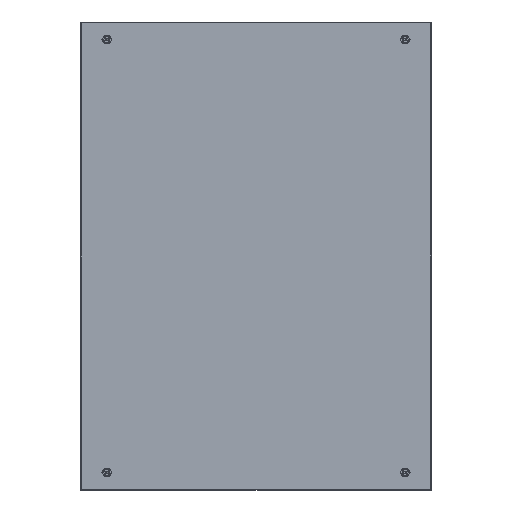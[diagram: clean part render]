
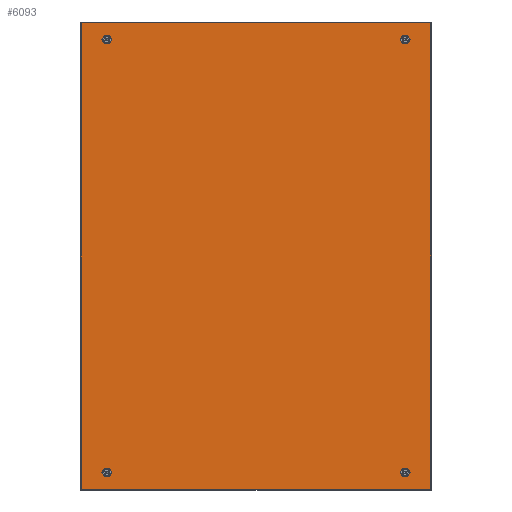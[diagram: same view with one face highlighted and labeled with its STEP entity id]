
A CAD part, left-side view. The second image highlights one B-rep face of the part: STEP entity #6093.
In plain terms, the highlighted planar face has unit normal (-1, 0, 0).
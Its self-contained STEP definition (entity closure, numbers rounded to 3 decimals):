
#497=CIRCLE('',#8016,5.125);
#499=CIRCLE('',#8019,5.125);
#501=CIRCLE('',#8022,5.125);
#510=CIRCLE('',#8056,5.125);
#1733=ORIENTED_EDGE('',*,*,#2707,.F.);
#1734=ORIENTED_EDGE('',*,*,#2709,.F.);
#1735=ORIENTED_EDGE('',*,*,#2711,.F.);
#1736=ORIENTED_EDGE('',*,*,#2810,.F.);
#1737=ORIENTED_EDGE('',*,*,#2811,.T.);
#1738=ORIENTED_EDGE('',*,*,#2812,.F.);
#1739=ORIENTED_EDGE('',*,*,#2813,.T.);
#1740=ORIENTED_EDGE('',*,*,#2814,.T.);
#1741=ORIENTED_EDGE('',*,*,#2815,.T.);
#1742=ORIENTED_EDGE('',*,*,#2816,.F.);
#1743=ORIENTED_EDGE('',*,*,#2817,.T.);
#1744=ORIENTED_EDGE('',*,*,#2818,.T.);
#1745=ORIENTED_EDGE('',*,*,#2819,.T.);
#1746=ORIENTED_EDGE('',*,*,#2820,.T.);
#1747=ORIENTED_EDGE('',*,*,#2821,.T.);
#1748=ORIENTED_EDGE('',*,*,#2822,.T.);
#2707=EDGE_CURVE('',#3349,#3349,#497,.T.);
#2709=EDGE_CURVE('',#3351,#3351,#499,.T.);
#2711=EDGE_CURVE('',#3353,#3353,#501,.T.);
#2810=EDGE_CURVE('',#3432,#3432,#510,.T.);
#2811=EDGE_CURVE('',#3433,#3434,#3999,.T.);
#2812=EDGE_CURVE('',#3435,#3434,#4000,.T.);
#2813=EDGE_CURVE('',#3435,#3436,#4001,.F.);
#2814=EDGE_CURVE('',#3436,#3437,#4002,.T.);
#2815=EDGE_CURVE('',#3437,#3438,#4003,.T.);
#2816=EDGE_CURVE('',#3439,#3438,#4004,.F.);
#2817=EDGE_CURVE('',#3439,#3440,#4005,.T.);
#2818=EDGE_CURVE('',#3440,#3441,#4006,.T.);
#2819=EDGE_CURVE('',#3441,#3442,#4007,.F.);
#2820=EDGE_CURVE('',#3442,#3443,#4008,.T.);
#2821=EDGE_CURVE('',#3443,#3444,#4009,.T.);
#2822=EDGE_CURVE('',#3444,#3433,#4010,.F.);
#3349=VERTEX_POINT('',#11163);
#3351=VERTEX_POINT('',#11168);
#3353=VERTEX_POINT('',#11173);
#3432=VERTEX_POINT('',#11376);
#3433=VERTEX_POINT('',#11378);
#3434=VERTEX_POINT('',#11379);
#3435=VERTEX_POINT('',#11381);
#3436=VERTEX_POINT('',#11383);
#3437=VERTEX_POINT('',#11385);
#3438=VERTEX_POINT('',#11387);
#3439=VERTEX_POINT('',#11389);
#3440=VERTEX_POINT('',#11391);
#3441=VERTEX_POINT('',#11393);
#3442=VERTEX_POINT('',#11395);
#3443=VERTEX_POINT('',#11397);
#3444=VERTEX_POINT('',#11399);
#3999=LINE('',#11377,#4583);
#4000=LINE('',#11380,#4584);
#4001=LINE('',#11382,#4585);
#4002=LINE('',#11384,#4586);
#4003=LINE('',#11386,#4587);
#4004=LINE('',#11388,#4588);
#4005=LINE('',#11390,#4589);
#4006=LINE('',#11392,#4590);
#4007=LINE('',#11394,#4591);
#4008=LINE('',#11396,#4592);
#4009=LINE('',#11398,#4593);
#4010=LINE('',#11400,#4594);
#4583=VECTOR('',#9547,1000.);
#4584=VECTOR('',#9548,1000.);
#4585=VECTOR('',#9549,1000.);
#4586=VECTOR('',#9550,1000.);
#4587=VECTOR('',#9551,1000.);
#4588=VECTOR('',#9552,1000.);
#4589=VECTOR('',#9553,1000.);
#4590=VECTOR('',#9554,1000.);
#4591=VECTOR('',#9555,1000.);
#4592=VECTOR('',#9556,1000.);
#4593=VECTOR('',#9557,1000.);
#4594=VECTOR('',#9558,1000.);
#5021=EDGE_LOOP('',(#1733));
#5022=EDGE_LOOP('',(#1734));
#5023=EDGE_LOOP('',(#1735));
#5024=EDGE_LOOP('',(#1736));
#5025=EDGE_LOOP('',(#1737,#1738,#1739,#1740,#1741,#1742,#1743,#1744,#1745,
#1746,#1747,#1748));
#5463=FACE_BOUND('',#5021,.T.);
#5464=FACE_BOUND('',#5022,.T.);
#5465=FACE_BOUND('',#5023,.T.);
#5466=FACE_BOUND('',#5024,.T.);
#5467=FACE_BOUND('',#5025,.T.);
#5771=PLANE('',#8055);
#6093=ADVANCED_FACE('',(#5463,#5464,#5465,#5466,#5467),#5771,.T.);
#8016=AXIS2_PLACEMENT_3D('',#11162,#9375,#9376);
#8019=AXIS2_PLACEMENT_3D('',#11167,#9381,#9382);
#8022=AXIS2_PLACEMENT_3D('',#11172,#9387,#9388);
#8055=AXIS2_PLACEMENT_3D('',#11374,#9543,#9544);
#8056=AXIS2_PLACEMENT_3D('',#11375,#9545,#9546);
#9375=DIRECTION('',(-1.,0.,0.));
#9376=DIRECTION('',(0.,-1.,0.));
#9381=DIRECTION('',(-1.,0.,0.));
#9382=DIRECTION('',(0.,-1.,0.));
#9387=DIRECTION('',(-1.,0.,0.));
#9388=DIRECTION('',(0.,-1.,0.));
#9543=DIRECTION('',(-1.,0.,0.));
#9544=DIRECTION('',(0.,-1.,0.));
#9545=DIRECTION('',(-1.,0.,0.));
#9546=DIRECTION('',(0.,-1.,0.));
#9547=DIRECTION('',(0.,0.,1.));
#9548=DIRECTION('',(0.,-0.708,0.706));
#9549=DIRECTION('',(0.,0.706,-0.708));
#9550=DIRECTION('',(0.,1.,0.));
#9551=DIRECTION('',(0.,-0.706,-0.708));
#9552=DIRECTION('',(0.,0.708,0.706));
#9553=DIRECTION('',(0.,0.,-1.));
#9554=DIRECTION('',(0.,-0.708,0.706));
#9555=DIRECTION('',(0.,-0.706,0.708));
#9556=DIRECTION('',(0.,-1.,0.));
#9557=DIRECTION('',(0.,0.706,0.708));
#9558=DIRECTION('',(0.,0.708,0.706));
#11162=CARTESIAN_POINT('',(-1.2,255.,-370.));
#11163=CARTESIAN_POINT('',(-1.2,249.875,-370.));
#11167=CARTESIAN_POINT('',(-1.2,255.,370.));
#11168=CARTESIAN_POINT('',(-1.2,249.875,370.));
#11172=CARTESIAN_POINT('',(-1.2,-255.,-370.));
#11173=CARTESIAN_POINT('',(-1.2,-260.125,-370.));
#11374=CARTESIAN_POINT('',(-1.2,0.,0.));
#11375=CARTESIAN_POINT('',(-1.2,-255.,370.));
#11376=CARTESIAN_POINT('',(-1.2,-260.125,370.));
#11377=CARTESIAN_POINT('',(-1.2,-300.,0.));
#11378=CARTESIAN_POINT('',(-1.2,-300.,-399.995));
#11379=CARTESIAN_POINT('',(-1.2,-300.,399.995));
#11380=CARTESIAN_POINT('',(-1.2,410.376,-308.836));
#11381=CARTESIAN_POINT('',(-1.2,-297.5,397.5));
#11382=CARTESIAN_POINT('',(-1.2,49.676,49.567));
#11383=CARTESIAN_POINT('',(-1.2,-299.995,400.));
#11384=CARTESIAN_POINT('',(-1.2,0.,400.));
#11385=CARTESIAN_POINT('',(-1.2,299.995,400.));
#11386=CARTESIAN_POINT('',(-1.2,-49.676,49.567));
#11387=CARTESIAN_POINT('',(-1.2,297.5,397.5));
#11388=CARTESIAN_POINT('',(-1.2,-410.376,-308.836));
#11389=CARTESIAN_POINT('',(-1.2,300.,399.995));
#11390=CARTESIAN_POINT('',(-1.2,300.,0.));
#11391=CARTESIAN_POINT('',(-1.2,300.,-399.995));
#11392=CARTESIAN_POINT('',(-1.2,-50.324,-50.433));
#11393=CARTESIAN_POINT('',(-1.2,297.5,-397.5));
#11394=CARTESIAN_POINT('',(-1.2,-49.676,-49.567));
#11395=CARTESIAN_POINT('',(-1.2,299.995,-400.));
#11396=CARTESIAN_POINT('',(-1.2,0.,-400.));
#11397=CARTESIAN_POINT('',(-1.2,-299.995,-400.));
#11398=CARTESIAN_POINT('',(-1.2,49.676,-49.567));
#11399=CARTESIAN_POINT('',(-1.2,-297.5,-397.5));
#11400=CARTESIAN_POINT('',(-1.2,50.324,-50.433));
